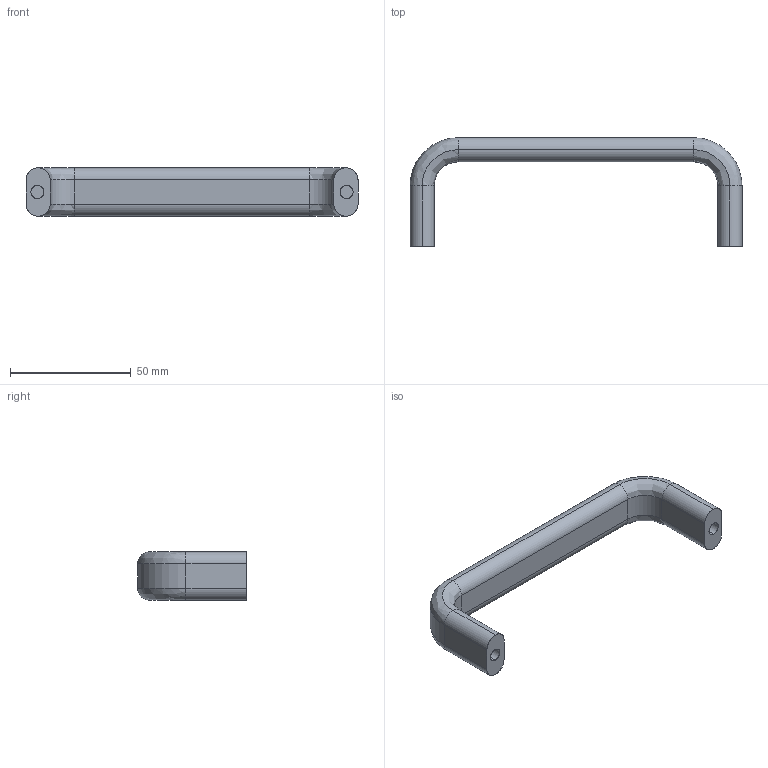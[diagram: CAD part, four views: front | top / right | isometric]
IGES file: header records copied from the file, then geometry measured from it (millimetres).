
Start section: SolidWorks IGES file using analytic representation for surfaces
Bounding box: 137.5 x 45 x 20 mm (x, y, z)
Surface area: 10703.1 mm2 (no closed solid volume)
Topology: 0 solids, 0 shells, 38 faces, 332 edges, 332 vertices
Faces by surface type: revolution 20, bspline 18
